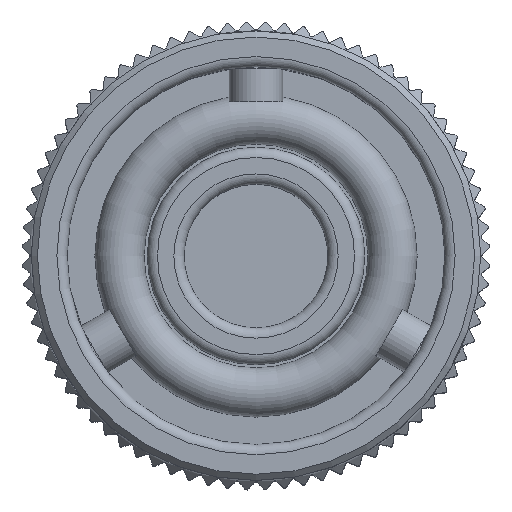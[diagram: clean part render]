
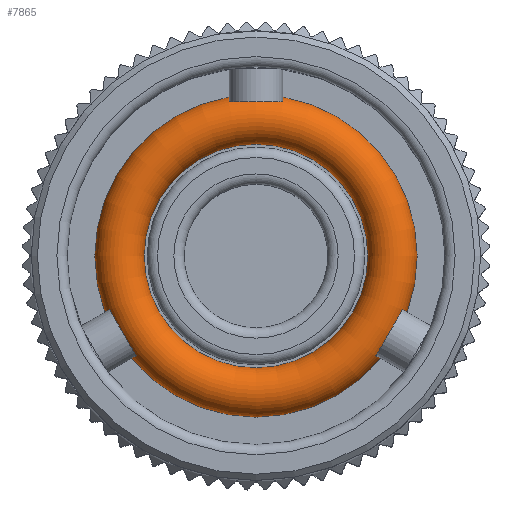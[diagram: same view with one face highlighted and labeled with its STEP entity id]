
A CAD part, top view. The second image highlights one B-rep face of the part: STEP entity #7865.
In plain terms, the highlighted toroidal (fillet/blend) face has major radius 6.65 mm and minor radius 1.2 mm.
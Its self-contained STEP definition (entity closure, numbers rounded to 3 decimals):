
#1091 = CARTESIAN_POINT ( 'NONE',  ( 0., 0., -10.65 ) ) ;
#1435 = CARTESIAN_POINT ( 'NONE',  ( 0., 0., -10.65 ) ) ;
#2410 = EDGE_CURVE ( 'NONE', #2686, #2686, #15204, .T. ) ;
#2686 = VERTEX_POINT ( 'NONE', #13479 ) ;
#3599 = TOROIDAL_SURFACE ( 'NONE', #7019, 6.65, 1.2 ) ;
#4044 = DIRECTION ( 'NONE',  ( 1., 0., 0. ) ) ;
#4070 = CARTESIAN_POINT ( 'NONE',  ( 5.45, 0., -10.65 ) ) ;
#5718 = DIRECTION ( 'NONE',  ( 0., 0., 1. ) ) ;
#6243 = FACE_OUTER_BOUND ( 'NONE', #15273, .T. ) ;
#6974 = DIRECTION ( 'NONE',  ( 0., 0., 1. ) ) ;
#7019 = AXIS2_PLACEMENT_3D ( 'NONE', #1435, #8852, #10393 ) ;
#7865 = ADVANCED_FACE ( 'NONE', ( #8907, #6243 ), #3599, .T. ) ;
#8645 = CIRCLE ( 'NONE', #10402, 5.45 ) ;
#8852 = DIRECTION ( 'NONE',  ( 0., 0., 1. ) ) ;
#8907 = FACE_OUTER_BOUND ( 'NONE', #19770, .T. ) ;
#9036 = ORIENTED_EDGE ( 'NONE', *, *, #2410, .T. ) ;
#10393 = DIRECTION ( 'NONE',  ( 1., 0., 0. ) ) ;
#10402 = AXIS2_PLACEMENT_3D ( 'NONE', #1091, #5718, #4044 ) ;
#10580 = AXIS2_PLACEMENT_3D ( 'NONE', #17633, #6974, #17695 ) ;
#11775 = EDGE_CURVE ( 'NONE', #14440, #14440, #8645, .T. ) ;
#13479 = CARTESIAN_POINT ( 'NONE',  ( 7.85, 0., -10.65 ) ) ;
#14440 = VERTEX_POINT ( 'NONE', #4070 ) ;
#15204 = CIRCLE ( 'NONE', #10580, 7.85 ) ;
#15273 = EDGE_LOOP ( 'NONE', ( #17907 ) ) ;
#17633 = CARTESIAN_POINT ( 'NONE',  ( 0., 0., -10.65 ) ) ;
#17695 = DIRECTION ( 'NONE',  ( 1., 0., 0. ) ) ;
#17907 = ORIENTED_EDGE ( 'NONE', *, *, #11775, .F. ) ;
#19770 = EDGE_LOOP ( 'NONE', ( #9036 ) ) ;
